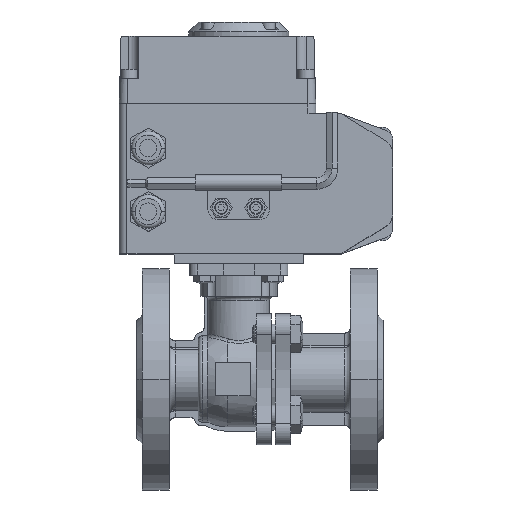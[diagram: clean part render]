
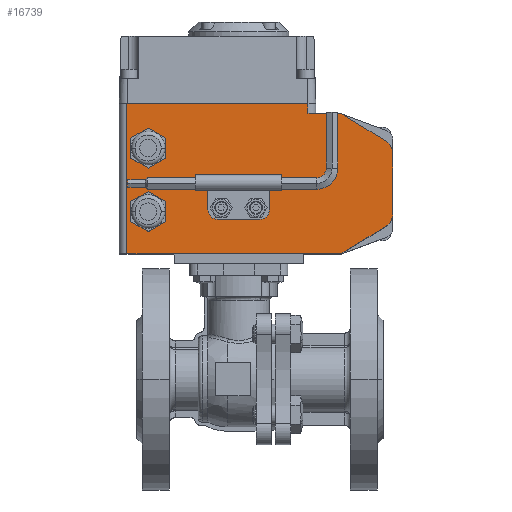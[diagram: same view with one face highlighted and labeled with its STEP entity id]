
A CAD part, top view. The second image highlights one B-rep face of the part: STEP entity #16739.
In plain terms, the highlighted planar face has unit normal (0, 0, 1).
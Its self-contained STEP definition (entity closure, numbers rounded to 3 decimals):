
#12406=CARTESIAN_POINT('',(61.749,28.5,0.));
#12407=DIRECTION('',(0.,0.,1.));
#12408=DIRECTION('',(0.521,0.853,0.));
#12409=AXIS2_PLACEMENT_3D('',#12406,#12407,#12408);
#12411=DIRECTION('',(-0.853,0.521,0.));
#12412=VECTOR('',#12411,24.905);
#12413=CARTESIAN_POINT('',(87.172,22.34,0.));
#12414=LINE('',#12413,#12412);
#12415=CARTESIAN_POINT('',(83.,15.513,0.));
#12416=DIRECTION('',(0.,0.,1.));
#12417=DIRECTION('',(1.,0.,0.));
#12418=AXIS2_PLACEMENT_3D('',#12415,#12416,#12417);
#12420=DIRECTION('',(0.,1.,0.));
#12421=VECTOR('',#12420,31.027);
#12422=CARTESIAN_POINT('',(91.,-15.513,0.));
#12423=LINE('',#12422,#12421);
#12424=CARTESIAN_POINT('',(83.,-15.513,0.));
#12425=DIRECTION('',(0.,0.,1.));
#12426=DIRECTION('',(0.521,-0.853,0.));
#12427=AXIS2_PLACEMENT_3D('',#12424,#12425,#12426);
#12429=DIRECTION('',(0.853,0.521,0.));
#12430=VECTOR('',#12429,24.905);
#12431=CARTESIAN_POINT('',(65.921,-35.326,0.));
#12432=LINE('',#12431,#12430);
#12433=CARTESIAN_POINT('',(61.749,-28.5,0.));
#12434=DIRECTION('',(0.,0.,1.));
#12435=DIRECTION('',(0.,-1.,0.));
#12436=AXIS2_PLACEMENT_3D('',#12433,#12434,#12435);
#12438=DIRECTION('',(1.,0.,0.));
#12439=VECTOR('',#12438,108.749);
#12440=CARTESIAN_POINT('',(-47.,-36.5,0.));
#12441=LINE('',#12440,#12439);
#12442=DIRECTION('',(-1.,0.,0.));
#12443=VECTOR('',#12442,94.);
#12444=CARTESIAN_POINT('',(47.,41.5,0.));
#12445=LINE('',#12444,#12443);
#12446=DIRECTION('',(0.,1.,0.));
#12447=VECTOR('',#12446,5.);
#12448=CARTESIAN_POINT('',(47.,36.5,0.));
#12449=LINE('',#12448,#12447);
#12450=DIRECTION('',(0.866,-0.5,0.));
#12451=VECTOR('',#12450,10.392);
#12452=CARTESIAN_POINT('',(-45.,-19.696,0.));
#12453=LINE('',#12452,#12451);
#12454=DIRECTION('',(0.866,0.5,0.));
#12455=VECTOR('',#12454,10.392);
#12456=CARTESIAN_POINT('',(-36.,-24.892,0.));
#12457=LINE('',#12456,#12455);
#12458=DIRECTION('',(0.,1.,0.));
#12459=VECTOR('',#12458,10.392);
#12460=CARTESIAN_POINT('',(-27.,-19.696,0.));
#12461=LINE('',#12460,#12459);
#12462=DIRECTION('',(-0.866,0.5,0.));
#12463=VECTOR('',#12462,10.392);
#12464=CARTESIAN_POINT('',(-27.,-9.304,0.));
#12465=LINE('',#12464,#12463);
#12466=DIRECTION('',(-0.866,-0.5,0.));
#12467=VECTOR('',#12466,10.392);
#12468=CARTESIAN_POINT('',(-36.,-4.108,0.));
#12469=LINE('',#12468,#12467);
#12470=DIRECTION('',(0.,-1.,0.));
#12471=VECTOR('',#12470,10.392);
#12472=CARTESIAN_POINT('',(-45.,-9.304,0.));
#12473=LINE('',#12472,#12471);
#12474=DIRECTION('',(0.866,-0.5,0.));
#12475=VECTOR('',#12474,10.392);
#12476=CARTESIAN_POINT('',(-45.,13.304,0.));
#12477=LINE('',#12476,#12475);
#12478=DIRECTION('',(0.866,0.5,0.));
#12479=VECTOR('',#12478,10.392);
#12480=CARTESIAN_POINT('',(-36.,8.108,0.));
#12481=LINE('',#12480,#12479);
#12482=DIRECTION('',(0.,1.,0.));
#12483=VECTOR('',#12482,10.392);
#12484=CARTESIAN_POINT('',(-27.,13.304,0.));
#12485=LINE('',#12484,#12483);
#12486=DIRECTION('',(-0.866,0.5,0.));
#12487=VECTOR('',#12486,10.392);
#12488=CARTESIAN_POINT('',(-27.,23.696,0.));
#12489=LINE('',#12488,#12487);
#12490=DIRECTION('',(-0.866,-0.5,0.));
#12491=VECTOR('',#12490,10.392);
#12492=CARTESIAN_POINT('',(-36.,28.892,0.));
#12493=LINE('',#12492,#12491);
#12494=DIRECTION('',(0.,-1.,0.));
#12495=VECTOR('',#12494,10.392);
#12496=CARTESIAN_POINT('',(-45.,23.696,0.));
#12497=LINE('',#12496,#12495);
#12498=CARTESIAN_POINT('',(2.,-12.5,0.));
#12499=DIRECTION('',(0.,0.,1.));
#12500=DIRECTION('',(1.,0.,0.));
#12501=AXIS2_PLACEMENT_3D('',#12498,#12499,#12500);
#12503=CARTESIAN_POINT('',(2.,-12.5,0.));
#12504=DIRECTION('',(0.,0.,1.));
#12505=DIRECTION('',(-1.,0.,0.));
#12506=AXIS2_PLACEMENT_3D('',#12503,#12504,#12505);
#12508=CARTESIAN_POINT('',(20.,-12.5,0.));
#12509=DIRECTION('',(0.,0.,1.));
#12510=DIRECTION('',(1.,0.,0.));
#12511=AXIS2_PLACEMENT_3D('',#12508,#12509,#12510);
#12513=CARTESIAN_POINT('',(20.,-12.5,0.));
#12514=DIRECTION('',(0.,0.,1.));
#12515=DIRECTION('',(-1.,0.,0.));
#12516=AXIS2_PLACEMENT_3D('',#12513,#12514,#12515);
#12992=DIRECTION('',(-1.,0.,0.));
#12993=VECTOR('',#12992,14.749);
#12994=CARTESIAN_POINT('',(61.749,36.5,0.));
#12995=LINE('',#12994,#12993);
#13073=DIRECTION('',(0.,-1.,0.));
#13074=VECTOR('',#13073,78.);
#13075=CARTESIAN_POINT('',(-47.,41.5,0.));
#13076=LINE('',#13075,#13074);
#15680=CARTESIAN_POINT('',(-47.,-36.5,0.));
#15682=VERTEX_POINT('',#15680);
#15685=CARTESIAN_POINT('',(-47.,41.5,0.));
#15687=VERTEX_POINT('',#15685);
#15696=CARTESIAN_POINT('',(47.,41.5,0.));
#15698=VERTEX_POINT('',#15696);
#15702=CARTESIAN_POINT('',(47.,36.5,0.));
#15703=VERTEX_POINT('',#15702);
#15712=CARTESIAN_POINT('',(65.921,35.326,0.));
#15713=CARTESIAN_POINT('',(61.749,36.5,0.));
#15714=VERTEX_POINT('',#15712);
#15715=VERTEX_POINT('',#15713);
#15716=CARTESIAN_POINT('',(91.,15.513,0.));
#15717=CARTESIAN_POINT('',(87.172,22.34,0.));
#15718=VERTEX_POINT('',#15716);
#15719=VERTEX_POINT('',#15717);
#15720=CARTESIAN_POINT('',(87.172,-22.34,0.));
#15721=CARTESIAN_POINT('',(91.,-15.513,0.));
#15722=VERTEX_POINT('',#15720);
#15723=VERTEX_POINT('',#15721);
#15724=CARTESIAN_POINT('',(61.749,-36.5,0.));
#15725=CARTESIAN_POINT('',(65.921,-35.326,0.));
#15726=VERTEX_POINT('',#15724);
#15727=VERTEX_POINT('',#15725);
#16416=CARTESIAN_POINT('',(-45.,-19.696,0.));
#16417=CARTESIAN_POINT('',(-36.,-24.892,0.));
#16418=VERTEX_POINT('',#16416);
#16419=VERTEX_POINT('',#16417);
#16420=CARTESIAN_POINT('',(-27.,-19.696,0.));
#16421=VERTEX_POINT('',#16420);
#16422=CARTESIAN_POINT('',(-27.,-9.304,0.));
#16423=VERTEX_POINT('',#16422);
#16424=CARTESIAN_POINT('',(-36.,-4.108,0.));
#16425=VERTEX_POINT('',#16424);
#16426=CARTESIAN_POINT('',(-45.,-9.304,0.));
#16427=VERTEX_POINT('',#16426);
#16500=CARTESIAN_POINT('',(-45.,13.304,0.));
#16501=VERTEX_POINT('',#16500);
#16502=CARTESIAN_POINT('',(-36.,8.108,0.));
#16503=VERTEX_POINT('',#16502);
#16504=CARTESIAN_POINT('',(-27.,13.304,0.));
#16505=VERTEX_POINT('',#16504);
#16506=CARTESIAN_POINT('',(-27.,23.696,0.));
#16507=VERTEX_POINT('',#16506);
#16508=CARTESIAN_POINT('',(-36.,28.892,0.));
#16509=VERTEX_POINT('',#16508);
#16510=CARTESIAN_POINT('',(-45.,23.696,0.));
#16511=VERTEX_POINT('',#16510);
#16580=CARTESIAN_POINT('',(5.,-12.5,0.));
#16581=CARTESIAN_POINT('',(-1.,-12.5,0.));
#16582=VERTEX_POINT('',#16580);
#16583=VERTEX_POINT('',#16581);
#16584=CARTESIAN_POINT('',(23.,-12.5,0.));
#16585=CARTESIAN_POINT('',(17.,-12.5,0.));
#16586=VERTEX_POINT('',#16584);
#16587=VERTEX_POINT('',#16585);
#16668=CARTESIAN_POINT('',(0.,0.,0.));
#16669=DIRECTION('',(0.,0.,1.));
#16670=DIRECTION('',(1.,0.,0.));
#16671=AXIS2_PLACEMENT_3D('',#16668,#16669,#16670);
#16672=PLANE('',#16671);
#16674=ORIENTED_EDGE('',*,*,#16673,.F.);
#16676=ORIENTED_EDGE('',*,*,#16675,.F.);
#16678=ORIENTED_EDGE('',*,*,#16677,.F.);
#16680=ORIENTED_EDGE('',*,*,#16679,.F.);
#16682=ORIENTED_EDGE('',*,*,#16681,.F.);
#16684=ORIENTED_EDGE('',*,*,#16683,.F.);
#16686=ORIENTED_EDGE('',*,*,#16685,.F.);
#16688=ORIENTED_EDGE('',*,*,#16687,.F.);
#16690=ORIENTED_EDGE('',*,*,#16689,.F.);
#16692=ORIENTED_EDGE('',*,*,#16691,.F.);
#16694=ORIENTED_EDGE('',*,*,#16693,.F.);
#16696=ORIENTED_EDGE('',*,*,#16695,.F.);
#16697=EDGE_LOOP('',(#16674,#16676,#16678,#16680,#16682,#16684,#16686,#16688,
#16690,#16692,#16694,#16696));
#16698=FACE_OUTER_BOUND('',#16697,.F.);
#16700=ORIENTED_EDGE('',*,*,#16699,.T.);
#16702=ORIENTED_EDGE('',*,*,#16701,.T.);
#16704=ORIENTED_EDGE('',*,*,#16703,.T.);
#16706=ORIENTED_EDGE('',*,*,#16705,.T.);
#16708=ORIENTED_EDGE('',*,*,#16707,.T.);
#16710=ORIENTED_EDGE('',*,*,#16709,.T.);
#16711=EDGE_LOOP('',(#16700,#16702,#16704,#16706,#16708,#16710));
#16712=FACE_BOUND('',#16711,.F.);
#16714=ORIENTED_EDGE('',*,*,#16713,.T.);
#16716=ORIENTED_EDGE('',*,*,#16715,.T.);
#16718=ORIENTED_EDGE('',*,*,#16717,.T.);
#16720=ORIENTED_EDGE('',*,*,#16719,.T.);
#16722=ORIENTED_EDGE('',*,*,#16721,.T.);
#16724=ORIENTED_EDGE('',*,*,#16723,.T.);
#16725=EDGE_LOOP('',(#16714,#16716,#16718,#16720,#16722,#16724));
#16726=FACE_BOUND('',#16725,.F.);
#16728=ORIENTED_EDGE('',*,*,#16727,.T.);
#16730=ORIENTED_EDGE('',*,*,#16729,.T.);
#16731=EDGE_LOOP('',(#16728,#16730));
#16732=FACE_BOUND('',#16731,.F.);
#16734=ORIENTED_EDGE('',*,*,#16733,.T.);
#16736=ORIENTED_EDGE('',*,*,#16735,.T.);
#16737=EDGE_LOOP('',(#16734,#16736));
#16738=FACE_BOUND('',#16737,.F.);
#16739=ADVANCED_FACE('',(#16698,#16712,#16726,#16732,#16738),#16672,.T.);
#12410=CIRCLE('',#12409,8.);
#12419=CIRCLE('',#12418,8.);
#12428=CIRCLE('',#12427,8.);
#12437=CIRCLE('',#12436,8.);
#12502=CIRCLE('',#12501,3.);
#12507=CIRCLE('',#12506,3.);
#12512=CIRCLE('',#12511,3.);
#12517=CIRCLE('',#12516,3.);
#16673=EDGE_CURVE('',#15714,#15715,#12410,.T.);
#16675=EDGE_CURVE('',#15719,#15714,#12414,.T.);
#16677=EDGE_CURVE('',#15718,#15719,#12419,.T.);
#16679=EDGE_CURVE('',#15723,#15718,#12423,.T.);
#16681=EDGE_CURVE('',#15722,#15723,#12428,.T.);
#16683=EDGE_CURVE('',#15727,#15722,#12432,.T.);
#16685=EDGE_CURVE('',#15726,#15727,#12437,.T.);
#16687=EDGE_CURVE('',#15682,#15726,#12441,.T.);
#16689=EDGE_CURVE('',#15687,#15682,#13076,.T.);
#16691=EDGE_CURVE('',#15698,#15687,#12445,.T.);
#16693=EDGE_CURVE('',#15703,#15698,#12449,.T.);
#16695=EDGE_CURVE('',#15715,#15703,#12995,.T.);
#16699=EDGE_CURVE('',#16418,#16419,#12453,.T.);
#16701=EDGE_CURVE('',#16419,#16421,#12457,.T.);
#16703=EDGE_CURVE('',#16421,#16423,#12461,.T.);
#16705=EDGE_CURVE('',#16423,#16425,#12465,.T.);
#16707=EDGE_CURVE('',#16425,#16427,#12469,.T.);
#16709=EDGE_CURVE('',#16427,#16418,#12473,.T.);
#16713=EDGE_CURVE('',#16501,#16503,#12477,.T.);
#16715=EDGE_CURVE('',#16503,#16505,#12481,.T.);
#16717=EDGE_CURVE('',#16505,#16507,#12485,.T.);
#16719=EDGE_CURVE('',#16507,#16509,#12489,.T.);
#16721=EDGE_CURVE('',#16509,#16511,#12493,.T.);
#16723=EDGE_CURVE('',#16511,#16501,#12497,.T.);
#16727=EDGE_CURVE('',#16582,#16583,#12502,.T.);
#16729=EDGE_CURVE('',#16583,#16582,#12507,.T.);
#16733=EDGE_CURVE('',#16586,#16587,#12512,.T.);
#16735=EDGE_CURVE('',#16587,#16586,#12517,.T.);
